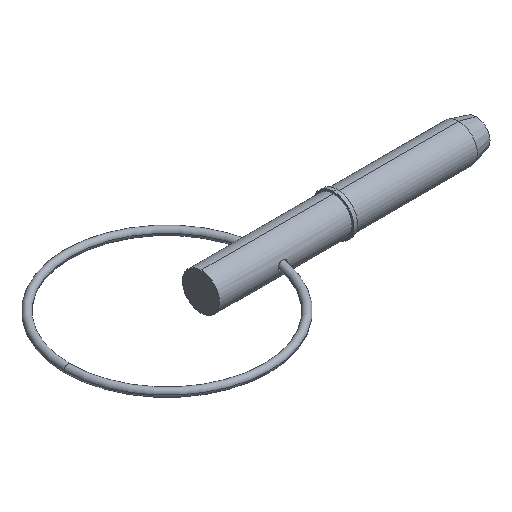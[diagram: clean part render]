
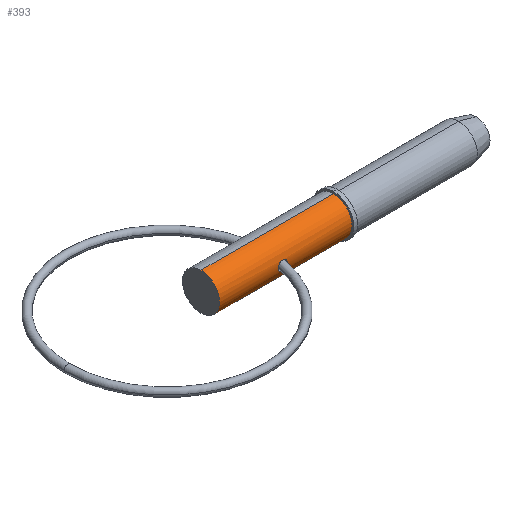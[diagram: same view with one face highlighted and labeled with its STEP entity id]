
A CAD part, isometric view. The second image highlights one B-rep face of the part: STEP entity #393.
In plain terms, the highlighted cylindrical face has radius 2.38 mm (diameter 4.76 mm), a partial arc.
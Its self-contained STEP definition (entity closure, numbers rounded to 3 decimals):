
#1 = B_SPLINE_CURVE_WITH_KNOTS ( 'NONE', 3,
 ( #500, #200, #839, #258, #168, #25, #104, #242, #459, #914, #253, #316, #756, #192 ),
 .UNSPECIFIED., .F., .F.,
 ( 4, 2, 2, 2, 2, 2, 4 ),
 ( 0.002, 0.003, 0.003, 0.003, 0.004, 0.004, 0.004 ),
 .UNSPECIFIED. ) ;
#7 = B_SPLINE_CURVE_WITH_KNOTS ( 'NONE', 3,
 ( #96, #852, #27, #689, #37, #254, #761, #265, #101, #560, #194, #550, #486, #693 ),
 .UNSPECIFIED., .F., .F.,
 ( 4, 2, 2, 2, 2, 2, 4 ),
 ( 0., 0.001, 0.001, 0.001, 0.001, 0.002, 0.002 ),
 .UNSPECIFIED. ) ;
#25 = CARTESIAN_POINT ( 'NONE',  ( 8.283, -2.308, -0.582 ) ) ;
#27 = CARTESIAN_POINT ( 'NONE',  ( 7.531, -2.376, 0.157 ) ) ;
#37 = CARTESIAN_POINT ( 'NONE',  ( 7.641, -2.352, 0.366 ) ) ;
#39 = FACE_OUTER_BOUND ( 'NONE', #842, .T. ) ;
#58 = DIRECTION ( 'NONE',  ( 1., 0., 0. ) ) ;
#91 = VERTEX_POINT ( 'NONE', #934 ) ;
#94 = CARTESIAN_POINT ( 'NONE',  ( 8.725, -2.38, 0. ) ) ;
#96 = CARTESIAN_POINT ( 'NONE',  ( 7.513, -2.38, 0. ) ) ;
#101 = CARTESIAN_POINT ( 'NONE',  ( 8.282, -2.308, 0.582 ) ) ;
#104 = CARTESIAN_POINT ( 'NONE',  ( 8.203, -2.304, -0.596 ) ) ;
#107 = ORIENTED_EDGE ( 'NONE', *, *, #400, .F. ) ;
#109 = VECTOR ( 'NONE', #411, 1000. ) ;
#118 = DIRECTION ( 'NONE',  ( 1., 0., 0. ) ) ;
#128 = LINE ( 'NONE', #707, #109 ) ;
#144 = EDGE_CURVE ( 'NONE', #260, #91, #1, .T. ) ;
#168 = CARTESIAN_POINT ( 'NONE',  ( 8.428, -2.322, -0.524 ) ) ;
#178 = VERTEX_POINT ( 'NONE', #483 ) ;
#192 = CARTESIAN_POINT ( 'NONE',  ( 7.513, -2.38, 0. ) ) ;
#194 = CARTESIAN_POINT ( 'NONE',  ( 8.495, -2.332, 0.48 ) ) ;
#200 = CARTESIAN_POINT ( 'NONE',  ( 8.725, -2.38, -0.159 ) ) ;
#242 = CARTESIAN_POINT ( 'NONE',  ( 7.966, -2.305, -0.592 ) ) ;
#253 = CARTESIAN_POINT ( 'NONE',  ( 7.594, -2.362, -0.301 ) ) ;
#254 = CARTESIAN_POINT ( 'NONE',  ( 7.812, -2.323, 0.529 ) ) ;
#258 = CARTESIAN_POINT ( 'NONE',  ( 8.495, -2.332, -0.48 ) ) ;
#260 = VERTEX_POINT ( 'NONE', #94 ) ;
#265 = CARTESIAN_POINT ( 'NONE',  ( 8.203, -2.304, 0.596 ) ) ;
#268 = VERTEX_POINT ( 'NONE', #399 ) ;
#269 = CIRCLE ( 'NONE', #344, 2.38 ) ;
#281 = CARTESIAN_POINT ( 'NONE',  ( 16.974, 0., 0. ) ) ;
#316 = CARTESIAN_POINT ( 'NONE',  ( 7.531, -2.376, -0.158 ) ) ;
#323 = CARTESIAN_POINT ( 'NONE',  ( 0., 0., -2.38 ) ) ;
#326 = ORIENTED_EDGE ( 'NONE', *, *, #609, .T. ) ;
#339 = FACE_BOUND ( 'NONE', #455, .T. ) ;
#344 = AXIS2_PLACEMENT_3D ( 'NONE', #281, #941, #562 ) ;
#345 = CARTESIAN_POINT ( 'NONE',  ( 0., 0., 0. ) ) ;
#369 = VECTOR ( 'NONE', #118, 1000. ) ;
#393 = ADVANCED_FACE ( 'NONE', ( #39, #339 ), #566, .T. ) ;
#399 = CARTESIAN_POINT ( 'NONE',  ( 0., 0., -2.38 ) ) ;
#400 = EDGE_CURVE ( 'NONE', #548, #464, #128, .T. ) ;
#411 = DIRECTION ( 'NONE',  ( 1., 0., 0. ) ) ;
#426 = ORIENTED_EDGE ( 'NONE', *, *, #939, .T. ) ;
#447 = DIRECTION ( 'NONE',  ( 1., 0., 0. ) ) ;
#455 = EDGE_LOOP ( 'NONE', ( #326, #535 ) ) ;
#459 = CARTESIAN_POINT ( 'NONE',  ( 7.811, -2.323, -0.528 ) ) ;
#464 = VERTEX_POINT ( 'NONE', #789 ) ;
#483 = CARTESIAN_POINT ( 'NONE',  ( 16.974, 0., -2.38 ) ) ;
#485 = EDGE_CURVE ( 'NONE', #464, #178, #269, .T. ) ;
#486 = CARTESIAN_POINT ( 'NONE',  ( 8.725, -2.38, 0.159 ) ) ;
#500 = CARTESIAN_POINT ( 'NONE',  ( 8.725, -2.38, 0. ) ) ;
#535 = ORIENTED_EDGE ( 'NONE', *, *, #144, .T. ) ;
#548 = VERTEX_POINT ( 'NONE', #709 ) ;
#550 = CARTESIAN_POINT ( 'NONE',  ( 8.661, -2.362, 0.315 ) ) ;
#560 = CARTESIAN_POINT ( 'NONE',  ( 8.428, -2.322, 0.524 ) ) ;
#562 = DIRECTION ( 'NONE',  ( 0., 0., -1. ) ) ;
#566 = CYLINDRICAL_SURFACE ( 'NONE', #634, 2.38 ) ;
#575 = AXIS2_PLACEMENT_3D ( 'NONE', #817, #447, #587 ) ;
#587 = DIRECTION ( 'NONE',  ( 0., 0., -1. ) ) ;
#609 = EDGE_CURVE ( 'NONE', #91, #260, #7, .T. ) ;
#621 = EDGE_CURVE ( 'NONE', #268, #178, #779, .T. ) ;
#634 = AXIS2_PLACEMENT_3D ( 'NONE', #345, #58, #931 ) ;
#689 = CARTESIAN_POINT ( 'NONE',  ( 7.595, -2.362, 0.301 ) ) ;
#693 = CARTESIAN_POINT ( 'NONE',  ( 8.725, -2.38, 0. ) ) ;
#701 = ORIENTED_EDGE ( 'NONE', *, *, #485, .F. ) ;
#707 = CARTESIAN_POINT ( 'NONE',  ( 0., 0., 2.38 ) ) ;
#709 = CARTESIAN_POINT ( 'NONE',  ( 0., 0., 2.38 ) ) ;
#753 = ORIENTED_EDGE ( 'NONE', *, *, #621, .T. ) ;
#756 = CARTESIAN_POINT ( 'NONE',  ( 7.513, -2.38, -0.079 ) ) ;
#761 = CARTESIAN_POINT ( 'NONE',  ( 7.967, -2.305, 0.592 ) ) ;
#779 = LINE ( 'NONE', #323, #369 ) ;
#789 = CARTESIAN_POINT ( 'NONE',  ( 16.974, 0., 2.38 ) ) ;
#791 = CIRCLE ( 'NONE', #575, 2.38 ) ;
#817 = CARTESIAN_POINT ( 'NONE',  ( 0., 0., 0. ) ) ;
#839 = CARTESIAN_POINT ( 'NONE',  ( 8.661, -2.362, -0.315 ) ) ;
#842 = EDGE_LOOP ( 'NONE', ( #107, #426, #753, #701 ) ) ;
#852 = CARTESIAN_POINT ( 'NONE',  ( 7.513, -2.38, 0.079 ) ) ;
#914 = CARTESIAN_POINT ( 'NONE',  ( 7.641, -2.352, -0.366 ) ) ;
#931 = DIRECTION ( 'NONE',  ( 0., 0., -1. ) ) ;
#934 = CARTESIAN_POINT ( 'NONE',  ( 7.513, -2.38, 0. ) ) ;
#939 = EDGE_CURVE ( 'NONE', #548, #268, #791, .T. ) ;
#941 = DIRECTION ( 'NONE',  ( 1., 0., 0. ) ) ;
